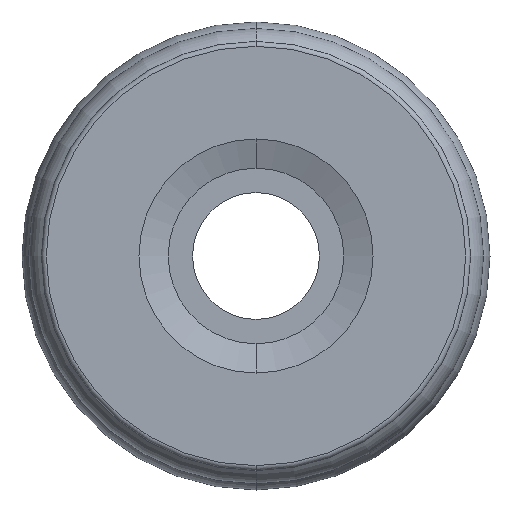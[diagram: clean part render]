
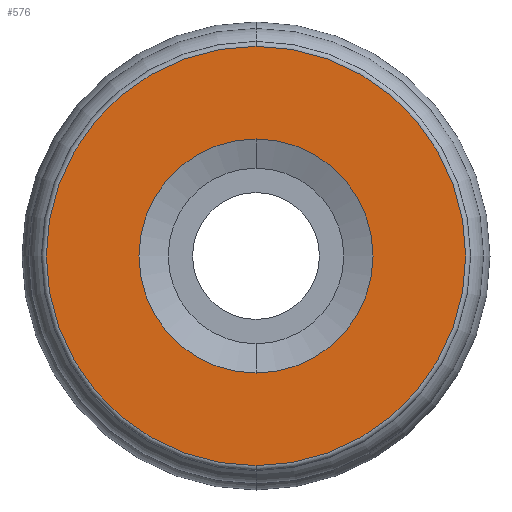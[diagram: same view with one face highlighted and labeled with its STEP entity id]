
A CAD part, front view. The second image highlights one B-rep face of the part: STEP entity #576.
In plain terms, the highlighted planar face has unit normal (0, -1, 0).
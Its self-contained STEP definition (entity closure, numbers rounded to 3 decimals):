
#296 = VERTEX_POINT ( 'NONE', #986 ) ;
#298 = EDGE_CURVE ( 'NONE', #299, #296, #985, .T. ) ;
#299 = VERTEX_POINT ( 'NONE', #980 ) ;
#364 = DIRECTION ( 'NONE',  ( 0., 0., -1. ) ) ;
#365 = DIRECTION ( 'NONE',  ( 0., -1., 0. ) ) ;
#366 = CARTESIAN_POINT ( 'NONE',  ( 0., 0., 0. ) ) ;
#367 = AXIS2_PLACEMENT_3D ( 'NONE', #366, #365, #364 ) ;
#368 = CIRCLE ( 'NONE', #367, 6. ) ;
#559 = DIRECTION ( 'NONE',  ( 0., 0., -1. ) ) ;
#560 = DIRECTION ( 'NONE',  ( 0., -1., 0. ) ) ;
#561 = CARTESIAN_POINT ( 'NONE',  ( 0., 0., 0. ) ) ;
#562 = AXIS2_PLACEMENT_3D ( 'NONE', #561, #560, #559 ) ;
#563 = CIRCLE ( 'NONE', #562, 10.75 ) ;
#576 = ADVANCED_FACE ( 'NONE', ( #1032, #1031 ), #1037, .T. ) ;
#577 = EDGE_LOOP ( 'NONE', ( #764, #765 ) ) ;
#609 = VERTEX_POINT ( 'NONE', #1054 ) ;
#611 = EDGE_CURVE ( 'NONE', #609, #612, #1053, .T. ) ;
#612 = VERTEX_POINT ( 'NONE', #1048 ) ;
#654 = EDGE_CURVE ( 'NONE', #612, #609, #368, .T. ) ;
#655 = ORIENTED_EDGE ( 'NONE', *, *, #611, .F. ) ;
#764 = ORIENTED_EDGE ( 'NONE', *, *, #298, .T. ) ;
#765 = ORIENTED_EDGE ( 'NONE', *, *, #766, .T. ) ;
#766 = EDGE_CURVE ( 'NONE', #296, #299, #563, .T. ) ;
#767 = EDGE_LOOP ( 'NONE', ( #768, #655 ) ) ;
#768 = ORIENTED_EDGE ( 'NONE', *, *, #654, .F. ) ;
#980 = CARTESIAN_POINT ( 'NONE',  ( 0., 0., -10.75 ) ) ;
#981 = DIRECTION ( 'NONE',  ( 0., 0., -1. ) ) ;
#982 = DIRECTION ( 'NONE',  ( 0., -1., 0. ) ) ;
#983 = CARTESIAN_POINT ( 'NONE',  ( 0., 0., 0. ) ) ;
#984 = AXIS2_PLACEMENT_3D ( 'NONE', #983, #982, #981 ) ;
#985 = CIRCLE ( 'NONE', #984, 10.75 ) ;
#986 = CARTESIAN_POINT ( 'NONE',  ( 0., 0., 10.75 ) ) ;
#1027 = DIRECTION ( 'NONE',  ( 0., 0., -1. ) ) ;
#1028 = DIRECTION ( 'NONE',  ( 0., -1., 0. ) ) ;
#1029 = CARTESIAN_POINT ( 'NONE',  ( 0., 0., 0. ) ) ;
#1030 = AXIS2_PLACEMENT_3D ( 'NONE', #1029, #1028, #1027 ) ;
#1031 = FACE_BOUND ( 'NONE', #767, .T. ) ;
#1032 = FACE_OUTER_BOUND ( 'NONE', #577, .T. ) ;
#1037 = PLANE ( 'NONE',  #1030 ) ;
#1048 = CARTESIAN_POINT ( 'NONE',  ( 0., 0., -6. ) ) ;
#1049 = DIRECTION ( 'NONE',  ( 0., 0., -1. ) ) ;
#1050 = DIRECTION ( 'NONE',  ( 0., -1., 0. ) ) ;
#1051 = CARTESIAN_POINT ( 'NONE',  ( 0., 0., 0. ) ) ;
#1052 = AXIS2_PLACEMENT_3D ( 'NONE', #1051, #1050, #1049 ) ;
#1053 = CIRCLE ( 'NONE', #1052, 6. ) ;
#1054 = CARTESIAN_POINT ( 'NONE',  ( 0., 0., 6. ) ) ;
